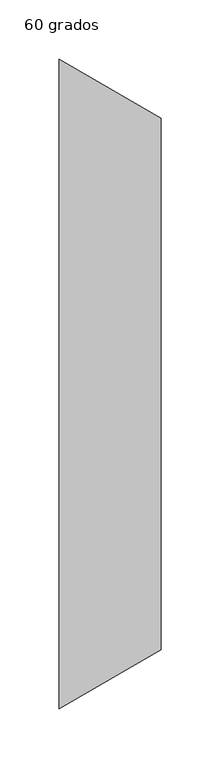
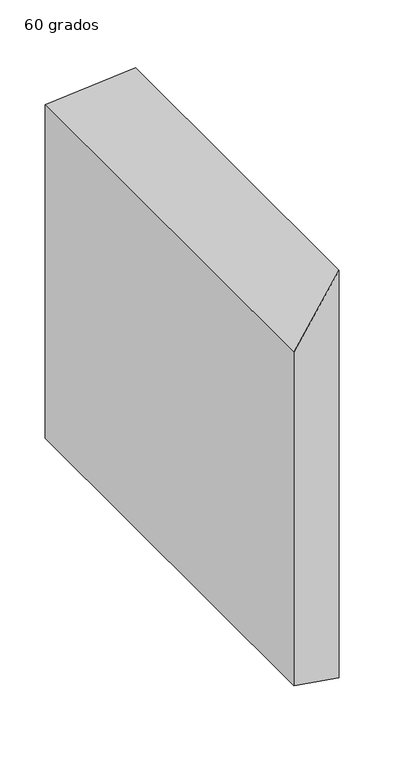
"""IFC4 building model written with IfcOpenShell, lengths in millimetres: duct fitting geometry, M_Transición rectangular - Ángulo : 60 grados."""

from ifc_helpers import new_model, si_unit, origin, place, context, project, spatial, faceted_brep, source, transform, mapped, element, save


def duct_fitting_60_grados_77ddb260(model_context):
    return source(origin(), model_context, "Body", "Brep", [
        faceted_brep([(86.6025404, -225.0, 275.0), (86.6025404, -225.0, -275.0), (86.6025404, 225.0, -275.0), (86.6025404, 225.0, 275.0), (0.0, -275.0, 225.0), (0.0, 275.0, 225.0), (0.0, 275.0, -225.0), (0.0, -275.0, -225.0)], [[[0, 1, 2, 3]], [[4, 5, 6, 7]], [[4, 7, 1, 0]], [[7, 6, 2, 1]], [[6, 5, 3, 2]], [[5, 4, 0, 3]]]),
    ])


if __name__ == "__main__":
    model = new_model("IFC4")
    model_context = context("Model", 3, world=origin())
    ifc_project = project(units=[si_unit("LENGTHUNIT", "METRE", prefix="MILLI")], contexts=[model_context])
    site = spatial("IfcSite", under=ifc_project)
    building = spatial("IfcBuilding", under=site)
    placement = place(None, origin())
    duct_fitting_60_grados_shape = duct_fitting_60_grados_77ddb260(model_context)
    element("IfcDuctFitting", 1, ObjectType="M_Transición rectangular - Ángulo : 60 grados", at=placement, inside=building, context=model_context, shape_type="MappedRepresentation", body=[
        mapped(duct_fitting_60_grados_shape, transform((0.0, 0.0, 0.0), x_axis=(1.0, 0.0, 0.0), y_axis=(0.0, 1.0, 0.0), z_axis=(0.0, 0.0, 1.0))),
    ])
    save(model, "model.ifc")
